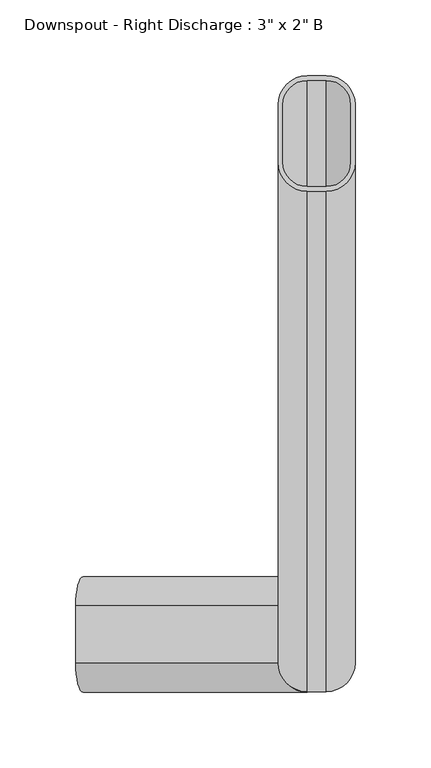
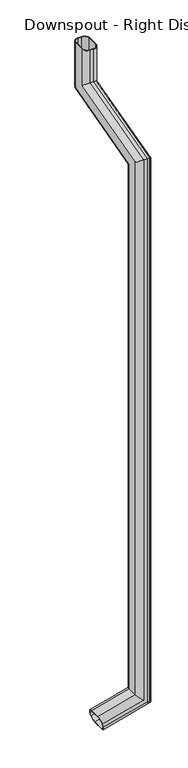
"""IFC4 building model written with IfcOpenShell, lengths in millimetres: proxy geometry."""

import ifcopenshell
import ifcopenshell.guid

model = None  # the IFC model being written
_history = None  # IfcOwnerHistory: only IFC2X3 demands one
_inside = {}  # id of a spatial element -> (the spatial element, [elements in it])
_under = {}  # id of a project, library or spatial element -> (it, [spatial elements below it])
_declared = {}  # id of a project -> (the project, [libraries it declares])
_typed = {}  # id of a type object -> (the type object, [elements of that type])
_made_of = {}  # id of a material, layer set ... -> (it, [elements and type objects made of it])


def new_model(schema):
    """Start an empty IFC model of exactly this schema.

    Asked for "IFC4X3", IfcOpenShell would pick the latest addendum, in which some entities
    have other attributes; the version numbers below select the first issue.
    IFC2X3 requires an IfcOwnerHistory on every rooted entity: one is made here for all.
    """
    global model, _history
    if schema == "IFC4X3":
        model = ifcopenshell.file(schema_version=(4, 3, 0, 0))
    else:
        model = ifcopenshell.file(schema=schema)
    _inside.clear()
    _under.clear()
    _declared.clear()
    _typed.clear()
    _made_of.clear()
    _history = None
    if model.schema == "IFC2X3":
        org = make("IfcOrganization", Name="unknown")
        user = make(
            "IfcPersonAndOrganization",
            ThePerson=make("IfcPerson", FamilyName="unknown"),
            TheOrganization=org,
        )
        app = make(
            "IfcApplication",
            ApplicationDeveloper=org,
            Version="unknown",
            ApplicationFullName="unknown",
            ApplicationIdentifier="unknown",
        )
        _history = make(
            "IfcOwnerHistory",
            OwningUser=user,
            OwningApplication=app,
            ChangeAction="ADDED",
            CreationDate=0,
        )
    return model


def make(cls, **values):
    """One entity of the class cls with the attributes given. An attribute that is None is left unset."""
    return model.create_entity(
        cls, **{name: value for name, value in values.items() if value is not None}
    )


def rooted(cls, **values):
    """An entity with a GlobalId (a new one), such as an element, a storey or a relation."""
    return make(cls, GlobalId=ifcopenshell.guid.new(), OwnerHistory=_history, **values)


def si_unit(unit_type, name, prefix=None):
    """IfcSIUnit, for example si_unit("LENGTHUNIT", "METRE", prefix="MILLI")."""
    return make("IfcSIUnit", UnitType=unit_type, Prefix=prefix, Name=name)


def assignment(units):
    """IfcUnitAssignment: the units of a project."""
    return None if units is None else make("IfcUnitAssignment", Units=units)


def point(xyz):
    """IfcCartesianPoint."""
    return None if xyz is None else make("IfcCartesianPoint", Coordinates=xyz)


def direction(xyz):
    """IfcDirection."""
    return None if xyz is None else make("IfcDirection", DirectionRatios=xyz)


def frame(location, z_axis=None, x_axis=None):
    """IfcAxis2Placement3D, a coordinate frame: its origin and axes. An axis left out is left unset."""
    return make(
        "IfcAxis2Placement3D",
        Location=point(location),
        Axis=direction(z_axis),
        RefDirection=direction(x_axis),
    )


def origin():
    """The frame at (0, 0, 0) with its axes left unset."""
    return frame((0.0, 0.0, 0.0))


def place(relative_to, where):
    """IfcLocalPlacement: puts the frame where relative to a parent placement (None: the world)."""
    return make(
        "IfcLocalPlacement", PlacementRelTo=relative_to, RelativePlacement=where
    )


def context(
    kind, dimensions, precision=None, world=None, true_north=None, identifier=None
):
    """IfcGeometricRepresentationContext, for example the 3D "Model" context."""
    return make(
        "IfcGeometricRepresentationContext",
        ContextIdentifier=identifier,
        ContextType=kind,
        CoordinateSpaceDimension=dimensions,
        Precision=precision,
        WorldCoordinateSystem=world,
        TrueNorth=true_north,
    )


def project(units=None, contexts=None):
    """IfcProject with its units and contexts."""
    return rooted(
        "IfcProject",
        Name="project",
        RepresentationContexts=contexts,
        UnitsInContext=assignment(units),
    )


def spatial(cls, under=None, at=None, **own):
    """A site, building, storey or space (cls), placed at a placement, below another one or the project."""
    s = rooted(cls, ObjectPlacement=at, **own)
    if under is not None:
        _under.setdefault(under.id(), (under, []))[1].append(s)
    return s


def polyline(points):
    """IfcPolyline through the points."""
    return make("IfcPolyline", Points=[point(p) for p in points])


def circle_curve(where, radius):
    """IfcCircle in the frame where."""
    return make("IfcCircle", Position=where, Radius=radius)


def ellipse_curve(where, semi_axis1, semi_axis2):
    """IfcEllipse in the frame where."""
    return make(
        "IfcEllipse", Position=where, SemiAxis1=semi_axis1, SemiAxis2=semi_axis2
    )


def shape(context_of_items, identifier, shape_type, items):
    """IfcShapeRepresentation: the items that make up one representation, for example the "Body"."""
    return make(
        "IfcShapeRepresentation",
        ContextOfItems=context_of_items,
        RepresentationIdentifier=identifier,
        RepresentationType=shape_type,
        Items=items,
    )


def source(mapping_origin, context_of_items, identifier, shape_type, items):
    """IfcRepresentationMap: a shape defined once, which mapped items show again and again."""
    return make(
        "IfcRepresentationMap",
        MappingOrigin=mapping_origin,
        MappedRepresentation=shape(context_of_items, identifier, shape_type, items),
    )


def transform(
    local_origin,
    x_axis=None,
    y_axis=None,
    z_axis=None,
    scale=None,
    scale2=None,
    scale3=None,
    uniform=True,
):
    """IfcCartesianTransformationOperator3D, or its non-uniform kind. x_axis, y_axis, z_axis: its Axis1, 2, 3."""
    if uniform:
        return make(
            "IfcCartesianTransformationOperator3D",
            Axis1=direction(x_axis),
            Axis2=direction(y_axis),
            LocalOrigin=point(local_origin),
            Scale=scale,
            Axis3=direction(z_axis),
        )
    return make(
        "IfcCartesianTransformationOperator3DnonUniform",
        Axis1=direction(x_axis),
        Axis2=direction(y_axis),
        LocalOrigin=point(local_origin),
        Scale=scale,
        Axis3=direction(z_axis),
        Scale2=scale2,
        Scale3=scale3,
    )


def mapped(mapping_source, mapping_target):
    """IfcMappedItem: shows the shape of a source again, moved by a transform."""
    return make(
        "IfcMappedItem", MappingSource=mapping_source, MappingTarget=mapping_target
    )


def made_of(thing, what):
    """Note that an element or type object is made of a material, layer set ...; save() writes the relation."""
    if what is not None:
        _made_of.setdefault(what.id(), (what, []))[1].append(thing)
    return thing


def element(
    cls,
    number,
    at=None,
    inside=None,
    cuts=None,
    type_object=None,
    material=None,
    context=None,
    identifier="Body",
    shape_type=None,
    held_by="IfcProductDefinitionShape",
    body=None,
    shapes=None,
    **own,
):
    """One element of the class cls, such as IfcWall. Its Tag is "e" and its number.

    at: its placement. inside: the storey or other place that contains it. cuts: it is an
    opening in that element (IfcRelVoidsElement). A single representation is given by context,
    identifier, shape_type and body (its items); several are given by shapes. held_by: the class
    of the entity that holds the representations. save() writes the other relations.
    """
    e = rooted(cls, Tag="e%d" % number, ObjectPlacement=at, **own)
    if body is not None:
        shapes = [shape(context, identifier, shape_type, body)]
    if shapes is not None:
        e.Representation = make(held_by, Representations=shapes)
    if inside is not None:
        _inside.setdefault(inside.id(), (inside, []))[1].append(e)
    if cuts is not None:
        rooted(
            "IfcRelVoidsElement", RelatingBuildingElement=cuts, RelatedOpeningElement=e
        )
    if type_object is not None:
        _typed.setdefault(type_object.id(), (type_object, []))[1].append(e)
    return made_of(e, material)


def aggregate(whole, parts):
    """IfcRelAggregates: a whole, such as a stair, and the parts it consists of."""
    return rooted("IfcRelAggregates", RelatingObject=whole, RelatedObjects=parts)


def save(model, path):
    """Write the relations noted so far, then the file.

    IfcRelAggregates (storeys below a building ...), IfcRelContainedInSpatialStructure (elements
    in a storey), IfcRelDefinesByType, IfcRelAssociatesMaterial and IfcRelDeclares: one each for
    every whole, place, type object, material and project.
    """
    for whole, parts in _under.values():
        aggregate(whole, parts)
    for where, things in _inside.values():
        rooted(
            "IfcRelContainedInSpatialStructure",
            RelatedElements=things,
            RelatingStructure=where,
        )
    for kind, things in _typed.values():
        rooted("IfcRelDefinesByType", RelatedObjects=things, RelatingType=kind)
    for what, things in _made_of.values():
        rooted("IfcRelAssociatesMaterial", RelatedObjects=things, RelatingMaterial=what)
    for by, libraries in _declared.values():
        rooted("IfcRelDeclares", RelatingContext=by, RelatedDefinitions=libraries)
    model.write(path)


def plane_surface(at):
    """IfcPlane: the flat surface through the origin of the frame at, square to its z axis."""
    return make("IfcPlane", Position=at)


def cylinder_surface(at, radius):
    """IfcCylindricalSurface: all points at the distance radius from the z axis of the frame at."""
    return make("IfcCylindricalSurface", Position=at, Radius=radius)


def revolved_surface(curve, axis_point, axis_direction):
    """IfcSurfaceOfRevolution: the curve turned about the line through axis_point along axis_direction."""
    return make(
        "IfcSurfaceOfRevolution",
        SweptCurve=make("IfcArbitraryOpenProfileDef", ProfileType="CURVE", Curve=curve),
        AxisPosition=make("IfcAxis1Placement", Location=point(axis_point), Axis=direction(axis_direction)),
    )


def advanced_brep(points, edges, surfaces, faces):
    """IfcAdvancedBrep: a solid bounded by faces that lie on surfaces and meet in shared edges.

    An edge is (start, end): straight between two places in points (the first is 0);
    or (start, end, curve); or (start, end, curve, False) where it runs against its curve.
    A face is (place in surfaces, loops), or (place, loops, False) where it looks against
    its surface's normal. A loop lists edges by number (the first is 1), with a minus sign
    where the edge is run from its end to its start. The first loop is the outer one.
    """
    corners = [point(p) for p in points]
    vertices = [make("IfcVertexPoint", VertexGeometry=c) for c in corners]
    made = []
    for start, end, *more in edges:
        made.append(
            make(
                "IfcEdgeCurve",
                EdgeStart=vertices[start],
                EdgeEnd=vertices[end],
                EdgeGeometry=more[0] if more else make("IfcPolyline", Points=[corners[start], corners[end]]),
                SameSense=more[1] if len(more) > 1 else True,
            )
        )
    hull = []
    for where, loops, *sense in faces:
        bounds = []
        for j, loop in enumerate(loops):
            ring = [make("IfcOrientedEdge", EdgeElement=made[abs(k) - 1], Orientation=k > 0) for k in loop]
            bounds.append(
                make(
                    "IfcFaceOuterBound" if j == 0 else "IfcFaceBound",
                    Bound=make("IfcEdgeLoop", EdgeList=ring),
                    Orientation=True,
                )
            )
        hull.append(make("IfcAdvancedFace", Bounds=bounds, FaceSurface=surfaces[where], SameSense=sense[0] if sense else True))
    return make("IfcAdvancedBrep", Outer=make("IfcClosedShell", CfsFaces=hull))


def proxy_ede8fee1(model_context):
    return source(origin(), model_context, "Body", "AdvancedBrep", [
        advanced_brep(
        [(-145.8259963, 184.15, 127.865484), (-150.7564991, 165.1, 146.266371), (-154.0435009, 165.1, 158.533629), (-158.9740037, 184.15, 176.934516), (-158.9740037, 222.25, 176.934516), (-154.0435009, 241.3, 158.533629), (-150.7564991, 241.3, 146.266371), (-145.8259963, 222.25, 127.865484), (-146.6477467, 184.15, 130.9322985), (-146.6477467, 222.25, 130.9322985), (-150.7564991, 238.125, 146.266371), (-154.0435009, 238.125, 158.533629), (-158.1522533, 222.25, 173.8677015), (-158.1522533, 184.15, 173.8677015), (-154.0435009, 168.275, 158.533629), (-150.7564991, 168.275, 146.266371), (6.35, 165.1, 188.3629306), (25.4, 184.15, 173.7453514), (25.4, 184.15, 2212.1407558), (6.35, 165.1, 2226.7583349), (-25.4, 184.15, 212.7255624), (-6.35, 165.1, 198.1079833), (-6.35, 165.1, 2226.7583349), (-25.4, 184.15, 2212.1407558), (-25.4, 222.25, 212.7255624), (-25.4, 514.35, 2300.6175791), (-25.4, 514.35, 2438.4), (-25.4, 552.45, 2438.4), (-25.4, 552.45, 2271.3824209), (-25.4, 222.25, 2182.9055975), (-6.35, 241.3, 198.1079833), (-6.35, 241.3, 2168.2880184), (25.4, 222.25, 173.7453514), (6.35, 241.3, 188.3629306), (6.35, 241.3, 2168.2880184), (25.4, 222.25, 2182.9055975), (25.4, 552.45, 2271.3824209), (25.4, 552.45, 2438.4), (25.4, 514.35, 2438.4), (25.4, 514.35, 2300.6175791), (22.225, 222.25, 176.1816146), (22.225, 184.15, 176.1816146), (22.225, 184.15, 2212.1407558), (22.225, 514.35, 2300.6175791), (22.225, 514.35, 2438.4), (22.225, 552.45, 2438.4), (22.225, 552.45, 2271.3824209), (22.225, 222.25, 2182.9055975), (6.35, 238.125, 188.3629306), (6.35, 238.125, 2170.7242816), (-22.225, 222.25, 210.2892992), (-6.35, 238.125, 198.1079833), (-6.35, 238.125, 2170.7242816), (-22.225, 222.25, 2182.9055975), (-22.225, 184.15, 210.2892992), (-22.225, 552.45, 2271.3824209), (-22.225, 552.45, 2438.4), (-22.225, 514.35, 2438.4), (-22.225, 514.35, 2300.6175791), (-22.225, 184.15, 2212.1407558), (-6.35, 168.275, 198.1079833), (-6.35, 168.275, 2224.3220717), (6.35, 168.275, 188.3629306), (6.35, 168.275, 2224.3220717), (6.35, 495.3, 2315.2351582), (-6.35, 495.3, 2315.2351582), (-6.35, 571.5, 2256.7648418), (6.35, 571.5, 2256.7648418), (6.35, 568.325, 2259.2011049), (-6.35, 568.325, 2259.2011049), (-6.35, 498.475, 2312.7988951), (6.35, 498.475, 2312.7988951), (6.35, 571.5, 2438.4), (-6.35, 571.5, 2438.4), (-6.35, 495.3, 2438.4), (6.35, 495.3, 2438.4), (6.35, 498.475, 2438.4), (-6.35, 498.475, 2438.4), (-6.35, 568.325, 2438.4), (6.35, 568.325, 2438.4)],
        [
            (0, 1, circle_curve(frame((-150.7564991, 184.15, 146.266371), z_axis=(-0.9659258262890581, 0.0, -0.2588190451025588), x_axis=(0.0, -1.0, 0.0)), 19.05)),
            (1, 2),
            (2, 3, circle_curve(frame((-154.0435009, 184.15, 158.533629), z_axis=(-0.9659258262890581, 0.0, -0.2588190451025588), x_axis=(0.0, -1.0, 0.0)), 19.05)),
            (3, 4),
            (4, 5, circle_curve(frame((-154.0435009, 222.25, 158.533629), z_axis=(-0.9659258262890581, 0.0, -0.2588190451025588), x_axis=(0.0, -1.0, 0.0)), 19.05)),
            (5, 6),
            (6, 7, circle_curve(frame((-150.7564991, 222.25, 146.266371), z_axis=(-0.9659258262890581, 0.0, -0.2588190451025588), x_axis=(0.0, -1.0, 0.0)), 19.05)),
            (7, 0),
            (8, 9),
            (9, 10, circle_curve(frame((-150.7564991, 222.25, 146.266371), z_axis=(0.9659258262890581, 0.0, 0.2588190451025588), x_axis=(0.0, -1.0, 0.0)), 15.875)),
            (10, 11),
            (11, 12, circle_curve(frame((-154.0435009, 222.25, 158.533629), z_axis=(0.9659258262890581, 0.0, 0.2588190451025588), x_axis=(0.0, -1.0, 0.0)), 15.875)),
            (12, 13),
            (13, 14, circle_curve(frame((-154.0435009, 184.15, 158.533629), z_axis=(0.9659258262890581, 0.0, 0.2588190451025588), x_axis=(0.0, -1.0, 0.0)), 15.875)),
            (14, 15),
            (15, 8, circle_curve(frame((-150.7564991, 184.15, 146.266371), z_axis=(0.9659258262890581, 0.0, 0.2588190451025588), x_axis=(0.0, -1.0, 0.0)), 15.875)),
            (16, 17, ellipse_curve(frame((6.35, 184.15, 188.3629306), z_axis=(0.6087614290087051, 0.0, 0.7933533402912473), x_axis=(0.7933533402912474, 0.0, -0.6087614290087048)), 24.0119995, 19.05)),
            (17, 18),
            (18, 19, ellipse_curve(frame((6.35, 184.15, 2212.1407558), z_axis=(0.0, -0.6087614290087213, -0.7933533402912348), x_axis=(0.0, 0.7933533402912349, -0.608761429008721)), 24.0119995, 19.05)),
            (19, 16),
            (20, 21, ellipse_curve(frame((-6.35, 184.15, 198.1079833), z_axis=(0.6087614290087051, 0.0, 0.7933533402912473), x_axis=(0.7933533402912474, 0.0, -0.6087614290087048)), 24.0119995, 19.05)),
            (21, 22),
            (22, 23, ellipse_curve(frame((-6.35, 184.15, 2212.1407558), z_axis=(0.0, -0.6087614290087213, -0.7933533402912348), x_axis=(0.0, 0.7933533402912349, -0.608761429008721)), 24.0119995, 19.05)),
            (23, 20),
            (24, 20),
            (23, 25),
            (25, 26),
            (26, 27),
            (27, 28),
            (28, 29),
            (29, 24),
            (30, 24, ellipse_curve(frame((-6.35, 222.25, 198.1079833), z_axis=(0.6087614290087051, 0.0, 0.7933533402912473), x_axis=(0.7933533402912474, 0.0, -0.6087614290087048)), 24.0119995, 19.05)),
            (29, 31, ellipse_curve(frame((-6.35, 222.25, 2182.9055975), z_axis=(0.0, -0.6087614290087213, -0.7933533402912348), x_axis=(0.0, 0.7933533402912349, -0.608761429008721)), 24.0119995, 19.05)),
            (31, 30),
            (32, 33, ellipse_curve(frame((6.35, 222.25, 188.3629306), z_axis=(0.6087614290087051, 0.0, 0.7933533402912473), x_axis=(0.7933533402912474, 0.0, -0.6087614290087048)), 24.0119995, 19.05)),
            (33, 34),
            (34, 35, ellipse_curve(frame((6.35, 222.25, 2182.9055975), z_axis=(0.0, -0.6087614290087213, -0.7933533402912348), x_axis=(0.0, 0.7933533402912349, -0.608761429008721)), 24.0119995, 19.05)),
            (35, 32),
            (17, 32),
            (35, 36),
            (36, 37),
            (37, 38),
            (38, 39),
            (39, 18),
            (40, 41),
            (41, 42),
            (42, 43),
            (43, 44),
            (44, 45),
            (45, 46),
            (46, 47),
            (47, 40),
            (48, 40, ellipse_curve(frame((6.35, 222.25, 188.3629306), z_axis=(-0.6087614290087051, 0.0, -0.7933533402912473), x_axis=(-0.7933533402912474, 0.0, 0.6087614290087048)), 20.0099996, 15.875)),
            (47, 49, ellipse_curve(frame((6.35, 222.25, 2182.9055975), z_axis=(0.0, 0.6087614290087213, 0.7933533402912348), x_axis=(0.0, -0.7933533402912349, 0.608761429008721)), 20.0099996, 15.875)),
            (49, 48),
            (50, 51, ellipse_curve(frame((-6.35, 222.25, 198.1079833), z_axis=(-0.6087614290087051, 0.0, -0.7933533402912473), x_axis=(-0.7933533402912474, 0.0, 0.6087614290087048)), 20.0099996, 15.875)),
            (51, 52),
            (52, 53, ellipse_curve(frame((-6.35, 222.25, 2182.9055975), z_axis=(0.0, 0.6087614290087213, 0.7933533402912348), x_axis=(0.0, -0.7933533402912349, 0.608761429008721)), 20.0099996, 15.875)),
            (53, 50),
            (54, 50),
            (53, 55),
            (55, 56),
            (56, 57),
            (57, 58),
            (58, 59),
            (59, 54),
            (60, 54, ellipse_curve(frame((-6.35, 184.15, 198.1079833), z_axis=(-0.6087614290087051, 0.0, -0.7933533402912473), x_axis=(-0.7933533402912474, 0.0, 0.6087614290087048)), 20.0099996, 15.875)),
            (59, 61, ellipse_curve(frame((-6.35, 184.15, 2212.1407558), z_axis=(0.0, 0.6087614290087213, 0.7933533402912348), x_axis=(0.0, -0.7933533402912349, 0.608761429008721)), 20.0099996, 15.875)),
            (61, 60),
            (41, 62, ellipse_curve(frame((6.35, 184.15, 188.3629306), z_axis=(-0.6087614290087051, 0.0, -0.7933533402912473), x_axis=(-0.7933533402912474, 0.0, 0.6087614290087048)), 20.0099996, 15.875)),
            (62, 63),
            (63, 42, ellipse_curve(frame((6.35, 184.15, 2212.1407558), z_axis=(0.0, 0.6087614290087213, 0.7933533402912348), x_axis=(0.0, -0.7933533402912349, 0.608761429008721)), 20.0099996, 15.875)),
            (39, 64, ellipse_curve(frame((6.35, 514.35, 2300.6175791), z_axis=(0.0, -0.6087614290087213, -0.7933533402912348), x_axis=(0.0, -0.7933533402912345, 0.6087614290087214)), 24.0119995, 19.05)),
            (64, 19),
            (22, 19),
            (64, 65),
            (65, 22),
            (65, 25, ellipse_curve(frame((-6.35, 514.35, 2300.6175791), z_axis=(0.0, -0.6087614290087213, -0.7933533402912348), x_axis=(0.0, -0.7933533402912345, 0.6087614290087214)), 24.0119995, 19.05)),
            (28, 66, ellipse_curve(frame((-6.35, 552.45, 2271.3824209), z_axis=(0.0, -0.6087614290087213, -0.7933533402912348), x_axis=(0.0, -0.7933533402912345, 0.6087614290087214)), 24.0119995, 19.05)),
            (66, 31),
            (34, 31),
            (66, 67),
            (67, 34),
            (67, 36, ellipse_curve(frame((6.35, 552.45, 2271.3824209), z_axis=(0.0, -0.6087614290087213, -0.7933533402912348), x_axis=(0.0, -0.7933533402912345, 0.6087614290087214)), 24.0119995, 19.05)),
            (46, 68, ellipse_curve(frame((6.35, 552.45, 2271.3824209), z_axis=(0.0, 0.6087614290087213, 0.7933533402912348), x_axis=(0.0, 0.7933533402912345, -0.6087614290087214)), 20.0099996, 15.875)),
            (68, 49),
            (52, 49),
            (68, 69),
            (69, 52),
            (69, 55, ellipse_curve(frame((-6.35, 552.45, 2271.3824209), z_axis=(0.0, 0.6087614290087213, 0.7933533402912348), x_axis=(0.0, 0.7933533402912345, -0.6087614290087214)), 20.0099996, 15.875)),
            (58, 70, ellipse_curve(frame((-6.35, 514.35, 2300.6175791), z_axis=(0.0, 0.6087614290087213, 0.7933533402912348), x_axis=(0.0, 0.7933533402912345, -0.6087614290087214)), 20.0099996, 15.875)),
            (70, 61),
            (63, 61),
            (70, 71),
            (71, 63),
            (71, 43, ellipse_curve(frame((6.35, 514.35, 2300.6175791), z_axis=(0.0, 0.6087614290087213, 0.7933533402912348), x_axis=(0.0, 0.7933533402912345, -0.6087614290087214)), 20.0099996, 15.875)),
            (37, 72, circle_curve(frame((6.35, 552.45, 2438.4), z_axis=(0.0, 0.0, 1.0), x_axis=(0.0, -1.0, 0.0)), 19.05)),
            (72, 73),
            (73, 27, circle_curve(frame((-6.35, 552.45, 2438.4), z_axis=(0.0, 0.0, 1.0), x_axis=(0.0, -1.0, 0.0)), 19.05)),
            (26, 74, circle_curve(frame((-6.35, 514.35, 2438.4), z_axis=(0.0, 0.0, 1.0), x_axis=(0.0, -1.0, 0.0)), 19.05)),
            (74, 75),
            (75, 38, circle_curve(frame((6.35, 514.35, 2438.4), z_axis=(0.0, 0.0, 1.0), x_axis=(0.0, -1.0, 0.0)), 19.05)),
            (44, 76, circle_curve(frame((6.35, 514.35, 2438.4), z_axis=(0.0, 0.0, -1.0), x_axis=(0.0, -1.0, 0.0)), 15.875)),
            (76, 77),
            (77, 57, circle_curve(frame((-6.35, 514.35, 2438.4), z_axis=(0.0, 0.0, -1.0), x_axis=(0.0, -1.0, 0.0)), 15.875)),
            (56, 78, circle_curve(frame((-6.35, 552.45, 2438.4), z_axis=(0.0, 0.0, -1.0), x_axis=(0.0, -1.0, 0.0)), 15.875)),
            (78, 79),
            (79, 45, circle_curve(frame((6.35, 552.45, 2438.4), z_axis=(0.0, 0.0, -1.0), x_axis=(0.0, -1.0, 0.0)), 15.875)),
            (75, 64),
            (74, 65),
            (73, 66),
            (72, 67),
            (79, 68),
            (78, 69),
            (77, 70),
            (76, 71),
            (0, 17),
            (16, 1),
            (21, 2),
            (20, 3),
            (24, 4),
            (30, 5),
            (33, 6),
            (32, 7),
            (8, 41),
            (40, 9),
            (48, 10),
            (51, 11),
            (50, 12),
            (54, 13),
            (60, 14),
            (62, 15),
        ],
        [
            plane_surface(frame((-152.4, 164.5744579, 152.4), z_axis=(-0.9659258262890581, 0.0, -0.2588190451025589), x_axis=(0.2588190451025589, 0.0, -0.9659258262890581))),
            cylinder_surface(frame((6.35, 184.15, 193.2354569), z_axis=(0.0, 0.0, -1.0), x_axis=(0.0, -1.0, 0.0)), 19.05),
            cylinder_surface(frame((-6.35, 184.15, 193.2354569), z_axis=(0.0, 0.0, -1.0), x_axis=(0.0, -1.0, 0.0)), 19.05),
            plane_surface(frame((-25.4, 184.15, 212.7255624), z_axis=(-1.0, 0.0, 0.0), x_axis=(0.0, 0.0, 1.0))),
            cylinder_surface(frame((-6.35, 222.25, 193.2354569), z_axis=(0.0, 0.0, -1.0), x_axis=(0.0, -1.0, 0.0)), 19.05),
            cylinder_surface(frame((6.35, 222.25, 193.2354569), z_axis=(0.0, 0.0, -1.0), x_axis=(0.0, -1.0, 0.0)), 19.05),
            plane_surface(frame((25.4, 222.25, 173.7453514), z_axis=(1.0, 0.0, 0.0), x_axis=(0.0, 0.0, 1.0))),
            plane_surface(frame((22.225, 184.15, 176.1816146), z_axis=(-1.0, 0.0, 0.0), x_axis=(0.0, 0.0, 1.0))),
            revolved_surface(polyline([(6.35, 206.375, 2195.0869134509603), (6.35, 206.375, 176.1816146)]), (6.35, 222.25, 193.2354569), (0.0, 0.0, 1.0)),
            revolved_surface(polyline([(-6.35, 206.375, 2195.0869134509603), (-6.35, 206.375, 185.9266673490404)]), (-6.35, 222.25, 193.2354569), (0.0, 0.0, 1.0)),
            plane_surface(frame((-22.225, 222.25, 210.2892992), z_axis=(1.0, 0.0, 0.0), x_axis=(0.0, 0.0, 1.0))),
            revolved_surface(polyline([(-6.35, 168.275, 2224.3220717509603), (-6.35, 168.275, 185.9266673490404)]), (-6.35, 184.15, 193.2354569), (0.0, 0.0, 1.0)),
            revolved_surface(polyline([(6.35, 168.275, 2224.3220717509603), (6.35, 168.275, 176.1816146)]), (6.35, 184.15, 193.2354569), (0.0, 0.0, 1.0)),
            cylinder_surface(frame((6.35, 198.2694972, 2215.9240637), z_axis=(0.0, -0.9659258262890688, -0.2588190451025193), x_axis=(0.0, -0.2588190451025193, 0.9659258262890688)), 19.05),
            plane_surface(frame((6.35, 165.1, 2226.7583349), z_axis=(0.0, -0.25881904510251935, 0.9659258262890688), x_axis=(0.0, 0.9659258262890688, 0.25881904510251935))),
            cylinder_surface(frame((-6.35, 198.2694972, 2215.9240637), z_axis=(0.0, -0.9659258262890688, -0.2588190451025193), x_axis=(0.0, -0.2588190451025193, 0.9659258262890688)), 19.05),
            cylinder_surface(frame((-6.35, 208.1305028, 2179.1222897), z_axis=(0.0, -0.9659258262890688, -0.2588190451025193), x_axis=(0.0, -0.2588190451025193, 0.9659258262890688)), 19.05),
            plane_surface(frame((-6.35, 241.3, 2168.2880184), z_axis=(0.0, 0.2588190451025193, -0.9659258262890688), x_axis=(0.0, 0.9659258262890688, 0.2588190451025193))),
            cylinder_surface(frame((6.35, 208.1305028, 2179.1222897), z_axis=(0.0, -0.9659258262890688, -0.2588190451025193), x_axis=(0.0, -0.2588190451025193, 0.9659258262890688)), 19.05),
            revolved_surface(polyline([(6.35, 560.1074953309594, 2289.8692499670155), (6.35, 206.37499996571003, 2195.0869134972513)]), (6.35, 208.1305028, 2179.1222897), (0.0, 0.9659258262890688, 0.2588190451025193)),
            plane_surface(frame((6.35, 238.125, 2170.7242816), z_axis=(0.0, -0.25881904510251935, 0.9659258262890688), x_axis=(0.0, 0.9659258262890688, 0.25881904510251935))),
            revolved_surface(polyline([(-6.35, 560.1074953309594, 2289.8692499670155), (-6.35, 206.37499996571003, 2195.0869134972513)]), (-6.35, 208.1305028, 2179.1222897), (0.0, 0.9659258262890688, 0.2588190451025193)),
            revolved_surface(polyline([(-6.35, 522.0074953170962, 2319.1044082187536), (-6.35, 168.27499997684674, 2224.3220717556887)]), (-6.35, 198.2694972, 2215.9240637), (0.0, 0.9659258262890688, 0.2588190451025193)),
            plane_surface(frame((-6.35, 168.275, 2224.3220717), z_axis=(0.0, 0.2588190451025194, -0.9659258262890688), x_axis=(0.0, 0.9659258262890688, 0.2588190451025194))),
            revolved_surface(polyline([(6.35, 522.0074953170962, 2319.1044082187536), (6.35, 168.27499997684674, 2224.3220717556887)]), (6.35, 198.2694972, 2215.9240637), (0.0, 0.9659258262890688, 0.2588190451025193)),
            plane_surface(frame((0.0, 494.7744579, 2438.4), z_axis=(0.0, 0.0, 1.0), x_axis=(1.0, 0.0, 0.0))),
            cylinder_surface(frame((6.35, 514.35, 2286.0), z_axis=(0.0, 0.0, -1.0), x_axis=(0.0, -1.0, 0.0)), 19.05),
            plane_surface(frame((6.35, 495.3, 2315.2351582), z_axis=(0.0, -1.0, 0.0), x_axis=(0.0, 0.0, 1.0))),
            cylinder_surface(frame((-6.35, 514.35, 2286.0), z_axis=(0.0, 0.0, -1.0), x_axis=(0.0, -1.0, 0.0)), 19.05),
            cylinder_surface(frame((-6.35, 552.45, 2286.0), z_axis=(0.0, 0.0, -1.0), x_axis=(0.0, -1.0, 0.0)), 19.05),
            plane_surface(frame((-6.35, 571.5, 2256.7648418), z_axis=(0.0, 1.0, 0.0), x_axis=(0.0, 0.0, 1.0))),
            cylinder_surface(frame((6.35, 552.45, 2286.0), z_axis=(0.0, 0.0, -1.0), x_axis=(0.0, -1.0, 0.0)), 19.05),
            revolved_surface(polyline([(6.35, 536.575, 2438.4), (6.35, 536.575, 2259.2011049)]), (6.35, 552.45, 2286.0), (0.0, 0.0, 1.0)),
            plane_surface(frame((6.35, 568.325, 2259.2011049), z_axis=(0.0, -1.0, 0.0), x_axis=(0.0, 0.0, 1.0))),
            revolved_surface(polyline([(-6.35, 536.575, 2438.4), (-6.35, 536.575, 2259.2011049)]), (-6.35, 552.45, 2286.0), (0.0, 0.0, 1.0)),
            revolved_surface(polyline([(-6.35, 498.475, 2438.4), (-6.35, 498.475, 2288.4362631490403)]), (-6.35, 514.35, 2286.0), (0.0, 0.0, 1.0)),
            plane_surface(frame((-6.35, 498.475, 2312.7988951), z_axis=(0.0, 1.0, 0.0), x_axis=(0.0, 0.0, 1.0))),
            revolved_surface(polyline([(6.35, 498.475, 2438.4), (6.35, 498.475, 2288.4362631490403)]), (6.35, 514.35, 2286.0), (0.0, 0.0, 1.0)),
            cylinder_surface(frame((-150.7564991, 184.15, 146.266371), z_axis=(-0.9659258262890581, 0.0, -0.2588190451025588), x_axis=(0.0, -1.0, 0.0)), 19.05),
            plane_surface(frame((-150.7564991, 165.1, 146.266371), z_axis=(0.0, -1.0, 0.0), x_axis=(0.9659258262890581, 0.0, 0.25881904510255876))),
            cylinder_surface(frame((-154.0435009, 184.15, 158.533629), z_axis=(-0.9659258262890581, 0.0, -0.2588190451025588), x_axis=(0.0, -1.0, 0.0)), 19.05),
            plane_surface(frame((-158.9740037, 184.15, 176.934516), z_axis=(-0.25881904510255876, 0.0, 0.9659258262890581), x_axis=(0.9659258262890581, 0.0, 0.25881904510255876))),
            cylinder_surface(frame((-154.0435009, 222.25, 158.533629), z_axis=(-0.9659258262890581, 0.0, -0.2588190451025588), x_axis=(0.0, -1.0, 0.0)), 19.05),
            plane_surface(frame((-154.0435009, 241.3, 158.533629), z_axis=(0.0, 1.0000000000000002, 0.0), x_axis=(0.9659258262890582, 0.0, 0.2588190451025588))),
            cylinder_surface(frame((-150.7564991, 222.25, 146.266371), z_axis=(-0.9659258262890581, 0.0, -0.2588190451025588), x_axis=(0.0, -1.0, 0.0)), 19.05),
            plane_surface(frame((-145.8259963, 222.25, 127.865484), z_axis=(0.2588190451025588, 0.0, -0.9659258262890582), x_axis=(0.9659258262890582, 0.0, 0.2588190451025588))),
            plane_surface(frame((-146.6477467, 184.15, 130.9322985), z_axis=(-0.2588190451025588, 0.0, 0.9659258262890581), x_axis=(0.9659258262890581, 0.0, 0.2588190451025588))),
            revolved_surface(polyline([(18.116247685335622, 206.375, 191.51568712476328), (-150.7564991, 206.375, 146.266371)]), (-150.7564991, 222.25, 146.266371), (0.9659258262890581, 0.0, 0.2588190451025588)),
            plane_surface(frame((-150.7564991, 238.125, 146.266371), z_axis=(0.0, -1.0, 0.0), x_axis=(0.9659258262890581, 0.0, 0.2588190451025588))),
            revolved_surface(polyline([(5.416247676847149, 206.375, 201.2607398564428), (-154.04350095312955, 206.375, 158.53362898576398)]), (-154.0435009, 222.25, 158.533629), (0.9659258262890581, 0.0, 0.2588190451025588)),
            plane_surface(frame((-158.1522533, 222.25, 173.8677015), z_axis=(0.25881904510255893, 0.0, -0.9659258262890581), x_axis=(0.9659258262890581, 0.0, 0.25881904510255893))),
            revolved_surface(polyline([(5.416247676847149, 168.275, 201.2607398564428), (-154.04350095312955, 168.275, 158.53362898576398)]), (-154.0435009, 184.15, 158.533629), (0.9659258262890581, 0.0, 0.2588190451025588)),
            plane_surface(frame((-154.0435009, 168.275, 158.533629), z_axis=(0.0, 1.0000000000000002, 0.0), x_axis=(0.9659258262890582, 0.0, 0.2588190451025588))),
            revolved_surface(polyline([(18.116247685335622, 168.275, 191.51568712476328), (-150.7564991, 168.275, 146.266371)]), (-150.7564991, 184.15, 146.266371), (0.9659258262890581, 0.0, 0.2588190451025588)),
        ],
        [
            (0, [[1, 2, 3, 4, 5, 6, 7, 8], [9, 10, 11, 12, 13, 14, 15, 16]]),
            (1, [[17, 18, 19, 20]]),
            (2, [[21, 22, 23, 24]]),
            (3, [[25, -24, 26, 27, 28, 29, 30, 31]]),
            (4, [[32, -31, 33, 34]]),
            (5, [[35, 36, 37, 38]]),
            (6, [[39, -38, 40, 41, 42, 43, 44, -18]]),
            (7, [[45, 46, 47, 48, 49, 50, 51, 52]]),
            (8, [[53, -52, 54, 55]]),
            (9, [[56, 57, 58, 59]]),
            (10, [[60, -59, 61, 62, 63, 64, 65, 66]]),
            (11, [[67, -66, 68, 69]]),
            (12, [[70, 71, 72, -46]]),
            (13, [[-19, -44, 73, 74]]),
            (14, [[75, -74, 76, 77]]),
            (15, [[-23, -77, 78, -26]]),
            (16, [[-33, -30, 79, 80]]),
            (17, [[81, -80, 82, 83]]),
            (18, [[-37, -83, 84, -40]]),
            (19, [[-54, -51, 85, 86]]),
            (20, [[87, -86, 88, 89]]),
            (21, [[-58, -89, 90, -61]]),
            (22, [[-68, -65, 91, 92]]),
            (23, [[93, -92, 94, 95]]),
            (24, [[-72, -95, 96, -47]]),
            (25, [[-42, 97, 98, 99, -28, 100, 101, 102], [103, 104, 105, -63, 106, 107, 108, -49]]),
            (26, [[-73, -43, -102, 109]]),
            (27, [[-76, -109, -101, 110]]),
            (28, [[-78, -110, -100, -27]]),
            (29, [[-79, -29, -99, 111]]),
            (30, [[-82, -111, -98, 112]]),
            (31, [[-84, -112, -97, -41]]),
            (32, [[-85, -50, -108, 113]]),
            (33, [[-88, -113, -107, 114]]),
            (34, [[-90, -114, -106, -62]]),
            (35, [[-91, -64, -105, 115]]),
            (36, [[-94, -115, -104, 116]]),
            (37, [[-96, -116, -103, -48]]),
            (38, [[-1, 117, -17, 118]]),
            (39, [[-2, -118, -20, -75, -22, 119]]),
            (40, [[-3, -119, -21, 120]]),
            (41, [[-4, -120, -25, 121]]),
            (42, [[-5, -121, -32, 122]]),
            (43, [[-6, -122, -34, -81, -36, 123]]),
            (44, [[-7, -123, -35, 124]]),
            (45, [[-8, -124, -39, -117]]),
            (46, [[-9, 125, -45, 126]]),
            (47, [[-10, -126, -53, 127]]),
            (48, [[-11, -127, -55, -87, -57, 128]]),
            (49, [[-12, -128, -56, 129]]),
            (50, [[-13, -129, -60, 130]]),
            (51, [[-14, -130, -67, 131]]),
            (52, [[-15, -131, -69, -93, -71, 132]]),
            (53, [[-16, -132, -70, -125]]),
        ],
    ),
    ])


if __name__ == "__main__":
    model = new_model("IFC4")
    model_context = context("Model", 3, world=origin())
    ifc_project = project(units=[si_unit("LENGTHUNIT", "METRE", prefix="MILLI")], contexts=[model_context])
    site = spatial("IfcSite", under=ifc_project)
    building = spatial("IfcBuilding", under=site)
    placement = place(None, origin())
    proxy_shape = proxy_ede8fee1(model_context)
    element("IfcBuildingElementProxy", 1, Name="Downspout - Right Discharge : 3\" x 2\" B", ObjectType="Downspout - Right Discharge : 3\" x 2\" B", at=placement, inside=building, context=model_context, shape_type="MappedRepresentation", body=[
        mapped(proxy_shape, transform((0.0, 0.0, 0.0), x_axis=(1.0, 0.0, 0.0), y_axis=(0.0, 1.0, 0.0), z_axis=(0.0, 0.0, 1.0))),
    ])
    save(model, "model.ifc")
